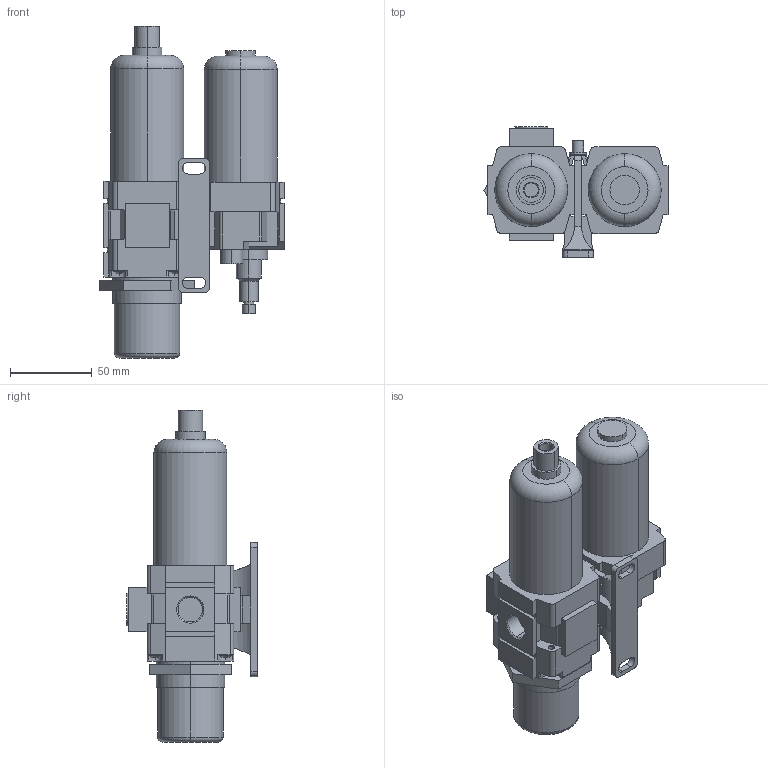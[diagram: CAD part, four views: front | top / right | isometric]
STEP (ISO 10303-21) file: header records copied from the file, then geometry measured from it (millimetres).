
FILE_DESCRIPTION (( 'STEP AP203' ), '1' );
FILE_NAME ('FRL300-03E-D.STEP', '2021-07-01T10:14:31', ( '' ), ( '' ), 'SwSTEP 2.0', 'SolidWorks 2019', '' );
FILE_SCHEMA (( 'CONFIG_CONTROL_DESIGN' ));
Length unit declared in the file: millimetre
Products named in the file (4): ST-03; FRL300-03E-D; L300-03; FR300-03E-D
Assembly tree (3 placements, depth 2):
  FRL300-03E-D
    FR300-03E-D
    ST-03
    L300-03
Bounding box: 112.57 x 80 x 203 mm (x, y, z)
Volume: 575003.1 mm3; surface area: 89987.2 mm2
Topology: 12 solids, 12 shells, 554 faces, 1395 edges, 908 vertices
Faces by surface type: plane 366, cylinder 144, cone 30, sphere 8, torus 6
Entity records: 17069 total; most frequent: CARTESIAN_POINT 2989, DIRECTION 2903, ORIENTED_EDGE 2790, EDGE_CURVE 1395, LINE 987, VECTOR 987, AXIS2_PLACEMENT_3D 958, VERTEX_POINT 908
